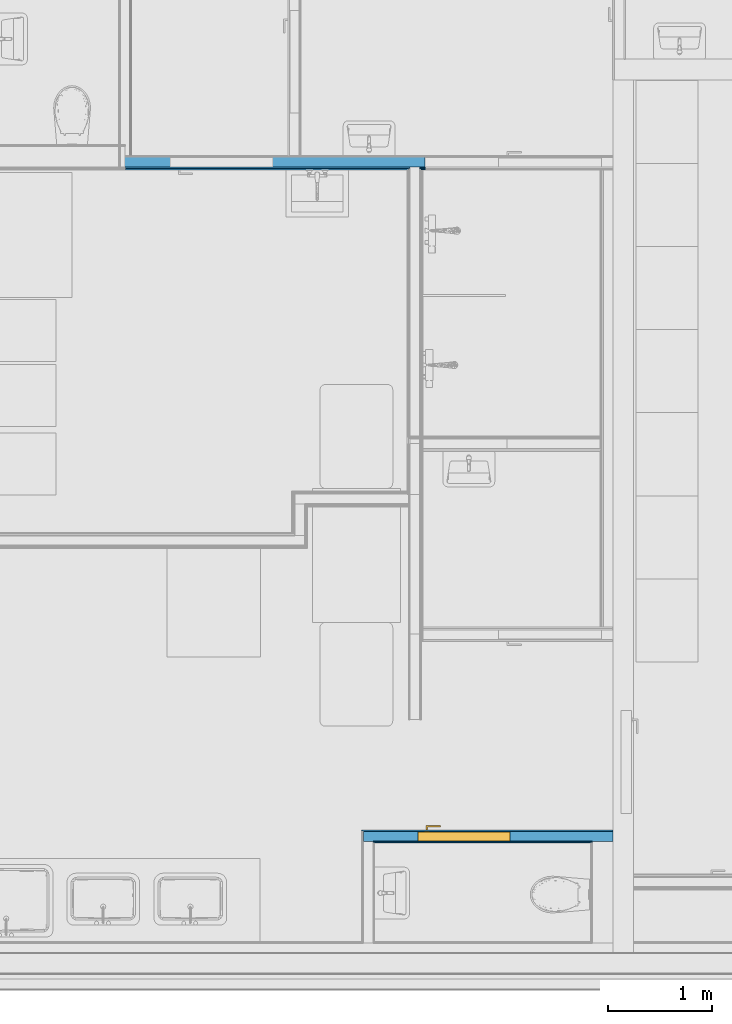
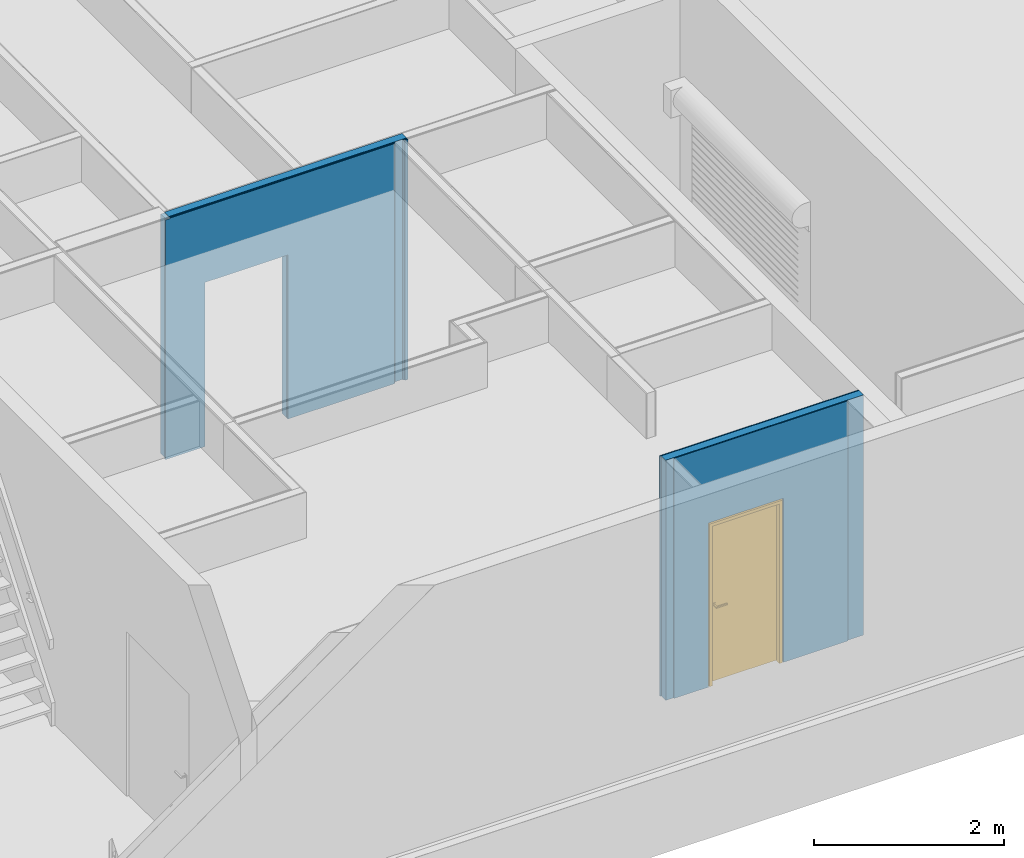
# One storey, part 21 of 67: 8 building element parts, 1 door, 2 openings, 2 elements without a shape of their own.
"""IFC4 building model written with IfcOpenShell, lengths in millimetres."""

from ifc_helpers import new_model, entity, si_unit, converted_unit, direction, frame, origin, place, context, subcontext, project, spatial, indexed_curve, outline, extrude, polygons, source, transform, mapped, material, constituent, constituent_set, type_object, type_shapes, element, fill, aggregate, save


model = new_model("IFC4")

# Units and contexts
model_context = context("Model", 3, precision=0.01, world=origin(), true_north=direction((0.0, 1.0)))
body_context = subcontext(model_context, "Body", "Model", "MODEL_VIEW")
ifc_project = project(units=[si_unit("LENGTHUNIT", "METRE", prefix="MILLI"), si_unit("AREAUNIT", "SQUARE_METRE"), si_unit("VOLUMEUNIT", "CUBIC_METRE"), converted_unit("PLANEANGLEUNIT", "DEGREE", entity("IfcPlaneAngleMeasure", 0.017453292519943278), si_unit("PLANEANGLEUNIT", "RADIAN"), dimensions=[0, 0, 0, 0, 0, 0, 0])], contexts=[model_context])

# Site, building, storey
site_placement = place(None, origin())
site = spatial("IfcSite", under=ifc_project, at=site_placement, Name="Tomtens navn", CompositionType="ELEMENT")
building_placement = place(site_placement, origin())
building = spatial("IfcBuilding", under=site, at=building_placement, Name="Byggets navn", CompositionType="ELEMENT")
storey_placement = place(building_placement, origin())
storey = spatial("IfcBuildingStorey", under=building, at=storey_placement, Name="Level 01", CompositionType="ELEMENT", Elevation=2.1993652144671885e-25)

# Door
ifc_material_1 = material(Name="Rustfritt Stål", Category="Metal")
ifc_constituent_1 = constituent(ifc_material_1, Name="Rustfritt Stål", Category="Metal", fraction=0.0019857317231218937)
ifc_material_2 = material(Name="NO_Maling - Hvit", Category="Overflatebehandling")
ifc_constituent_2 = constituent(ifc_material_2, Name="NO_Maling - Hvit", Category="Overflatebehandling", fraction=0.7764080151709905)
ifc_material_3 = material(Name="Hvit", Category="Paint")
ifc_constituent_3 = constituent(ifc_material_3, Name="Hvit", Category="Paint", fraction=0.2216062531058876)
ifc_constituent_set_1 = constituent_set(constituents=[ifc_constituent_1, ifc_constituent_2, ifc_constituent_3])
ifc_constituent_4 = constituent(ifc_material_1, Name="Rustfritt Stål", Category="Metal", fraction=0.0019857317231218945)
ifc_constituent_5 = constituent(ifc_material_2, Name="Panel", Category="Overflatebehandling", fraction=0.7764080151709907)
ifc_constituent_6 = constituent(ifc_material_3, Name="Frame/Mullion", Category="Paint", fraction=0.22160625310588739)
ifc_constituent_set_2 = constituent_set(constituents=[ifc_constituent_4, ifc_constituent_5, ifc_constituent_6])
door_type = type_object("IfcDoorType", Name="Enfløyet:ID04 Tredør 9x21M", OperationType="SINGLE_SWING_RIGHT", PredefinedType="DOOR", material=ifc_constituent_set_2)
shared_shape = source(origin(), body_context, "Body", "SweptSolid", [
    extrude(outline(indexed_curve([(-50.833333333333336, -33.33333333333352), (-35.83333333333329, -33.33333333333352), (-35.8333333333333, 9.166666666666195), (86.66666666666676, 9.16666666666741), (86.66666666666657, 24.166666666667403), (-50.83333333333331, 24.16666666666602), (-50.833333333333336, -33.33333333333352)], self_intersect=False)), frame((141.33333333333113, 139.9410394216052, 980.5000000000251)), (0.0, 0.0, 1.0), 14.999999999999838),
    extrude(outline(indexed_curve([(-24.999999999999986, -2.7999999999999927), (25.000000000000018, -2.800000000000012), (24.999999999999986, 2.7999999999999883), (-24.99999999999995, 2.8000000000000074), (-24.999999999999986, -2.7999999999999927)], self_intersect=False)), frame((98.0, 103.80000000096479, 850.9862950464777), z_axis=(0.0, 0.0, 1.0), x_axis=(-1.0, 0.0, 0.0)), (0.0, 0.0, 1.0), 159.01370495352),
    extrude(outline(indexed_curve([(-33.33333333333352, -50.83333333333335), (24.16666666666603, -50.83333333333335), (24.166666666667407, 86.66666666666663), (9.166666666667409, 86.6666666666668), (9.16666666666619, -35.83333333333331), (-33.33333333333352, -35.83333333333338), (-33.33333333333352, -50.83333333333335)], self_intersect=False)), frame((141.33333333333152, 22.058960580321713, 980.5000000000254), z_axis=(0.0, 0.0, 1.0), x_axis=(0.0, -1.0, 0.0)), (0.0, 0.0, 1.0), 14.999999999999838),
    extrude(outline(indexed_curve([(-2.800000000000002, -25.00000000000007), (2.799999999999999, -25.00000000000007), (2.8000000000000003, 25.0), (-2.800000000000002, 24.999999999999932), (-2.800000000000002, -25.00000000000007)], self_intersect=False)), frame((98.0, 58.20000000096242, 850.9862950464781), z_axis=(0.0, 0.0, 1.0), x_axis=(0.0, 1.0, 0.0)), (0.0, 0.0, 1.0), 159.01370495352),
    extrude(outline(indexed_curve([(-20.0, -406.9999999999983), (20.0, -406.9999999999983), (20.0, 406.9999999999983), (-20.0, 406.9999999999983), (-20.0, -406.9999999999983)], self_intersect=False)), frame((455.0, 81.0, 10.0), z_axis=(0.0, 0.0, 1.0), x_axis=(0.0, 1.0, 0.0)), (0.0, 0.0, 1.0), 2042.0),
    extrude(outline(indexed_curve([(-1035.4999999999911, -444.9999999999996), (1054.4999999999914, -444.99999999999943), (1054.4999999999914, 444.99999999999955), (-1035.4999999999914, 444.99999999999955), (-1035.4999999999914, 406.9999999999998), (1016.4999999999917, 406.9999999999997), (1016.4999999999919, -406.99999999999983), (-1035.4999999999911, -406.9999999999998), (-1035.4999999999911, -444.9999999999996)], self_intersect=False)), frame((455.0, 1.0, 1035.4999999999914), z_axis=(0.0, 1.0, 0.0), x_axis=(0.0, 0.0, 1.0)), (0.0, 0.0, 1.0), 99.99999999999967),
])
type_shapes(door_type, [shared_shape])
wall_2_placement = place(storey_placement, frame((66622.85352810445, 9186.966456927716, 0.0), z_axis=(0.0, 0.0, 1.0), x_axis=(-1.0, 0.0, 0.0)))
opening_2_placement = place(wall_2_placement, frame((1888.842638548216, 60.500000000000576, 0.0)))
door_placement = place(opening_2_placement, frame((0.0, 0.0, 0.0), z_axis=(0.0, 0.0, 1.0), x_axis=(-1.0, 0.0, 0.0)))
door = element("IfcDoor", 1, at=door_placement, inside=storey, type_object=door_type, material=ifc_constituent_set_1, Name="Enfløyet:ID04 Tredør 9x21M", OverallHeight=2110.000000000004, OverallWidth=909.9999999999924, PredefinedType="DOOR", context=body_context, shape_type="MappedRepresentation", body=[
    mapped(shared_shape, transform((0.0, 0.0, 0.0), scale=1.0)),
])

# Wall, opening, building element parts
wall_type_1 = type_object("IfcWallType", Name="Basic Wall:IV14 Gips 95 Stender kryssfiner Gips", PredefinedType="STANDARD")
wall_1_placement = place(storey_placement, frame((64815.35352810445, 15671.96645692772, 0.0), z_axis=(0.0, 0.0, 1.0), x_axis=(-1.0, 0.0, 0.0)))
wall_1 = element("IfcWall", 2, at=wall_1_placement, inside=storey, type_object=wall_type_1, Name="Basic Wall:IV14 Gips 95 Stender kryssfiner Gips", PredefinedType="NOTDEFINED")
opening_1_placement = place(wall_1_placement, frame((1457.5000000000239, -68.0, 0.0)))
element("IfcOpeningElement", 3, at=opening_1_placement, cuts=wall_1, Name="Enfløyet:ID06 Tredør 10x21M:1", PredefinedType="OPENING", context=body_context, shape_type="SweptSolid", body=[
    extrude(outline(indexed_curve([(0.0, 3.5193181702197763e-12), (2110.000000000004, 3.5193181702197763e-12), (2110.000000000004, 1009.9999999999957), (0.0, 1009.9999999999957), (0.0, 3.5193181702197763e-12)], self_intersect=False)), frame((0.0, 0.0, 0.0), z_axis=(0.0, 1.0, 0.0), x_axis=(0.0, 0.0, 1.0)), (0.0, 0.0, 1.0), 136.0),
])
ifc_material_4 = material(Name="NO_Kryssfiner", Category="Tre")
building_element_part_1_placement = place(wall_1_placement, origin())
building_element_part_1 = element("IfcBuildingElementPart", 4, at=building_element_part_1_placement, material=ifc_material_4, Name="NO_Kryssfiner", context=body_context, shape_type="SweptSolid", body=[
    extrude(outline(indexed_curve([(-7.500000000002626, -25.749999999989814), (7.499999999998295, -25.749999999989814), (7.499999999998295, 25.749999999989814), (-7.500000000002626, 25.749999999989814), (-7.500000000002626, -25.749999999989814)], self_intersect=False)), frame((25.74999999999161, 47.500000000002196, 0.0), z_axis=(0.0, 0.0, 1.0), x_axis=(0.0, 1.0, 0.0)), (0.0, 0.0, 1.0), 3087.999999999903),
])
building_element_part_2_placement = place(wall_1_placement, frame((2937.0, 55.0, 0.0)))
building_element_part_2 = element("IfcBuildingElementPart", 5, at=building_element_part_2_placement, material=ifc_material_4, Name="NO_Kryssfiner", context=body_context, shape_type="Tessellation", body=[
    polygons([(9.067655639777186e-12, 0.0, 3079.9999999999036), (-47.500000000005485, 0.0, 3079.9999999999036), (-47.500000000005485, -15.000000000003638, 3079.9999999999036), (9.069376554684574e-12, -15.000000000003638, 3079.9999999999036), (-1479.4999999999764, 0.0, 7.331217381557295e-26), (-1479.4999999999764, 0.0, 2110.000000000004), (-1479.4999999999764, -15.000000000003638, 2110.000000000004), (-1479.4999999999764, -15.000000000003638, 7.331217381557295e-26), (-469.4999999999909, 0.0, 2110.0000000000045), (-469.4999999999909, -15.000000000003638, 2110.000000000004), (-469.4999999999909, 0.0, 7.331217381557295e-26), (-469.4999999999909, -15.000000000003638, 7.331217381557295e-26), (9.067655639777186e-12, 0.0, 7.331217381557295e-26), (9.069376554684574e-12, -15.000000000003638, 7.331217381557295e-26), (-2790.5000000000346, 0.0, 3079.9999999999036), (-2790.5000000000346, 0.0, 7.331217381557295e-26), (-2790.5000000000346, -15.000000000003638, 7.331217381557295e-26), (-2790.5000000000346, -15.0, 3079.9999999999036), (-2790.5000000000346, -15.000000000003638, 3087.999999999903), (-2790.5000000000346, 0.0, 3087.999999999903), (-47.500000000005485, 0.0, 3087.999999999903), (-47.500000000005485, -15.000000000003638, 3087.999999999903)], [[[1, 2, 3, 4]], [[5, 6, 7, 8]], [[6, 9, 10, 7]], [[9, 11, 12, 10]], [[11, 13, 14, 12]], [[14, 13, 1, 4]], [[15, 16, 17, 18, 19, 20]], [[2, 21, 22, 3]], [[21, 20, 19, 22]], [[8, 7, 10, 12, 14, 4, 3, 22, 19, 18, 17]], [[5, 8, 17, 16]], [[13, 11, 9, 6, 5, 16, 15, 20, 21, 2, 1]]], closed=True),
])
ifc_material_5 = material(Name="Stender", Category="Unassigned")
building_element_part_3_placement = place(wall_1_placement, frame((2937.0, 40.0, 0.0)))
building_element_part_3 = element("IfcBuildingElementPart", 6, at=building_element_part_3_placement, material=ifc_material_5, Name="Stender", context=body_context, shape_type="Tessellation", body=[
    polygons([(-47.50000000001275, -95.00000000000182, 3079.9999999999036), (9.080275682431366e-12, -95.00000000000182, 3079.9999999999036), (9.069376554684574e-12, -3.637978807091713e-12, 3079.9999999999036), (-47.500000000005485, -3.637978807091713e-12, 3079.9999999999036), (-2937.0000000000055, -95.00000000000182, 7.331217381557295e-26), (-1479.4999999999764, -95.00000000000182, 7.331217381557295e-26), (-1479.4999999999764, -95.00000000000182, 2110.000000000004), (-469.4999999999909, -95.00000000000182, 2110.000000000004), (-469.4999999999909, -95.00000000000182, 7.331217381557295e-26), (9.080275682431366e-12, -95.00000000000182, 7.331217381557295e-26), (-47.50000000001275, -95.00000000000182, 3087.999999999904), (-2937.0000000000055, -95.00000000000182, 3087.999999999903), (-2937.0000000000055, -95.00000000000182, 3079.9999999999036), (-2937.0000000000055, -3.637978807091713e-12, 7.331217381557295e-26), (-1479.4999999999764, -3.637978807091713e-12, 7.331217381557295e-26), (-1479.4999999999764, -3.637978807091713e-12, 2110.000000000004), (-469.4999999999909, -3.637978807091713e-12, 2110.000000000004), (-469.4999999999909, -3.637978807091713e-12, 7.331217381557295e-26), (9.069376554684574e-12, -3.637978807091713e-12, 7.331217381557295e-26), (-2937.0000000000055, -3.637978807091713e-12, 3087.999999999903), (-2937.0000000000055, 0.0, 3079.9999999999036), (-47.500000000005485, -3.637978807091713e-12, 3087.999999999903)], [[[1, 2, 3, 4]], [[5, 6, 7, 8, 9, 10, 2, 1, 11, 12, 13]], [[6, 5, 14, 15]], [[7, 6, 15, 16]], [[8, 7, 16, 17]], [[9, 8, 17, 18]], [[10, 9, 18, 19]], [[5, 13, 12, 20, 21, 14]], [[15, 14, 21, 20, 22, 4, 3, 19, 18, 17, 16]], [[10, 19, 3, 2]], [[11, 1, 4, 22]], [[12, 11, 22, 20]]], closed=True),
])
ifc_material_6 = material(Name="Gipsplater", Category="NOR ^ Gips")
building_element_part_4_placement = place(wall_1_placement, origin())
building_element_part_4 = element("IfcBuildingElementPart", 7, at=building_element_part_4_placement, material=ifc_material_6, Name="Gipsplater", context=body_context, shape_type="SweptSolid", body=[
    extrude(outline(indexed_curve([(-6.499999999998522, -18.249999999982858), (6.500000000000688, -18.249999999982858), (6.500000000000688, 18.24999999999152), (-6.499999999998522, 18.24999999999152), (-6.499999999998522, -18.249999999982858)], self_intersect=False)), frame((18.24999999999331, 61.49999999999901, 0.0), z_axis=(0.0, 0.0, 1.0), x_axis=(0.0, 1.0, 0.0)), (0.0, 0.0, 1.0), 3087.999999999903),
])
building_element_part_5_placement = place(wall_1_placement, frame((2950.0, 68.0, 0.0)))
building_element_part_5 = element("IfcBuildingElementPart", 8, at=building_element_part_5_placement, material=ifc_material_6, Name="Gipsplater", context=body_context, shape_type="Tessellation", body=[
    polygons([(-60.50000000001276, -12.999999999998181, 3079.9999999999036), (1.7916980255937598e-12, -12.999999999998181, 3079.9999999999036), (1.7902065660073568e-12, 1.8189894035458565e-12, 3079.9999999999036), (-60.50000000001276, 1.8189894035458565e-12, 3079.9999999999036), (-1492.4999999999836, -12.999999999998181, 2110.0000000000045), (-1492.4999999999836, -12.999999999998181, 7.331217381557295e-26), (-1492.4999999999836, 1.8189894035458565e-12, 2.1993652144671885e-25), (-1492.4999999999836, 1.8189894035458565e-12, 2110.000000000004), (-482.4999999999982, -12.999999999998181, 2110.0000000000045), (-482.49999999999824, 1.8189894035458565e-12, 2110.000000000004), (-482.4999999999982, -12.999999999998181, 7.331217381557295e-26), (-482.49999999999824, 1.8189894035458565e-12, 2.1993652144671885e-25), (1.7916980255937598e-12, -12.999999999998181, 7.331217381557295e-26), (1.7902065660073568e-12, 1.8189894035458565e-12, 2.1993652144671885e-25), (-2775.5000000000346, 1.8189894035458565e-12, 2.1993652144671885e-25), (-2788.5000000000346, 1.8189894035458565e-12, 1.466243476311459e-25), (-2788.5000000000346, 1.8189894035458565e-12, 3079.999999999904), (-2788.5000000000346, 1.8189894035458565e-12, 3087.999999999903), (-2775.5000000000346, 1.8189894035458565e-12, 3087.999999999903), (-60.50000000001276, 1.8189894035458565e-12, 3087.999999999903), (-2788.5000000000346, -12.999999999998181, 1.409983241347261e-15), (-2788.5000000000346, -12.999999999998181, 3079.9999999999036), (-2788.5000000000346, -12.999999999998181, 3087.999999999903), (-60.50000000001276, -12.999999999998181, 3087.999999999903)], [[[1, 2, 3, 4]], [[5, 6, 7, 8]], [[9, 5, 8, 10]], [[11, 9, 10, 12]], [[13, 11, 12, 14]], [[2, 13, 14, 3]], [[3, 14, 12, 10, 8, 7, 15, 16, 17, 18, 19, 20, 4]], [[21, 22, 23, 18, 17, 16]], [[24, 1, 4, 20]], [[23, 24, 20, 19, 18]], [[15, 7, 6, 21, 16]], [[6, 5, 9, 11, 13, 2, 1, 24, 23, 22, 21]]], closed=True),
])
aggregate(wall_1, [building_element_part_1, building_element_part_2, building_element_part_3, building_element_part_4, building_element_part_5])

# Wall, opening
wall_type_2 = type_object("IfcWallType", Name="Basic Wall:IV10  Forestia 95 Stender Forestia", PredefinedType="STANDARD")
wall_2 = element("IfcWall", 9, at=wall_2_placement, inside=storey, type_object=wall_type_2, Name="Basic Wall:IV10  Forestia 95 Stender Forestia", PredefinedType="NOTDEFINED")
opening_2 = element("IfcOpeningElement", 10, at=opening_2_placement, cuts=wall_2, Name="Enfløyet:ID04 Tredør 9x21M:1", PredefinedType="OPENING", context=body_context, shape_type="SweptSolid", body=[
    extrude(outline(indexed_curve([(0.0, 909.9999999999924), (0.0, 7.072080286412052e-29), (2110.000000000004, 7.072080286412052e-29), (2110.000000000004, 909.9999999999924), (0.0, 909.9999999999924)], self_intersect=False)), frame((0.0, 0.0, 0.0), z_axis=(0.0, -1.0, 0.0), x_axis=(0.0, 0.0, 1.0)), (0.0, 0.0, 1.0), 120.99999999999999),
])

fill(opening_2, door)

# Building element part
building_element_part_6_placement = place(wall_2_placement, frame((2403.842638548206, 47.49999999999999, 0.0)))
building_element_part_6 = element("IfcBuildingElementPart", 11, at=building_element_part_6_placement, material=ifc_material_5, Name="Stender", context=body_context, shape_type="Tessellation", body=[
    polygons([(-1.7098637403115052e-11, 0.0, 7.331217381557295e-26), (-515.0000000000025, 0.0, 7.331217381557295e-26), (-515.0000000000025, 0.0, 2110.000000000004), (-1424.9999999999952, 0.0, 2110.000000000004), (-1424.9999999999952, 0.0, 7.331217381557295e-26), (-2403.8426385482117, 0.0, 7.331217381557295e-26), (-2403.8426385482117, 0.0, 3087.999999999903), (-1.7098637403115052e-11, 0.0, 3087.999999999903), (-2403.8426385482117, -95.0, 7.331217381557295e-26), (-1424.9999999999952, -95.0, 7.331217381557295e-26), (-1424.9999999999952, -95.0, 2110.000000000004), (-515.0000000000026, -95.0, 2110.000000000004), (-515.0000000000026, -95.0, 7.331217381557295e-26), (-2403.8426385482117, -95.0, 3087.999999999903), (-1.712510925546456e-11, -95.0, 3087.999999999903), (-1.712510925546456e-11, -95.0, 7.331217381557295e-26)], [[[1, 2, 3, 4, 5, 6, 7, 8]], [[9, 6, 5, 10]], [[10, 5, 4, 11]], [[11, 4, 3, 12]], [[2, 13, 12, 3]], [[6, 9, 14, 7]], [[15, 8, 7, 14]], [[1, 16, 13, 2]], [[13, 16, 15, 14, 9, 10, 11, 12]], [[16, 1, 8, 15]]], closed=True),
])

ifc_material_7 = material(Name="NO_platekledning forestia", Category="Tre")
building_element_part_7_placement = place(wall_2_placement, frame((2308.842638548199, 60.50000000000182, 0.0)))
building_element_part_7 = element("IfcBuildingElementPart", 12, at=building_element_part_7_placement, material=ifc_material_7, Name="NO_platekledning forestia", context=body_context, shape_type="Tessellation", body=[
    polygons([(-2097.8426385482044, -1.8189894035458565e-12, 2.1993652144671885e-25), (-1329.999999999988, -3.637978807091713e-12, 2.1993652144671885e-25), (-1329.999999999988, -13.000000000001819, 7.331217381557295e-26), (-2110.84263854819, -13.000000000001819, 7.331217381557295e-26), (-2110.84263854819, -3.637978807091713e-12, 2.1993652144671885e-25), (-1329.999999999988, -3.637978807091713e-12, 2110.000000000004), (-1329.999999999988, -13.000000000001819, 2110.000000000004), (-419.9999999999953, -3.637978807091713e-12, 2110.000000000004), (-419.9999999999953, -13.000000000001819, 2110.000000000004), (-419.9999999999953, -3.637978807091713e-12, 2.1993652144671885e-25), (-419.9999999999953, -13.000000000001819, 7.331217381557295e-26), (-2097.8426385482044, -1.8189894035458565e-12, 3087.999999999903), (-2110.84263854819, -3.637978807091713e-12, 3087.999999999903), (-2110.84263854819, -13.000000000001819, 3087.999999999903), (-2.5467221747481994e-12, -13.000000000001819, 3087.999999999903), (-2.5430997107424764e-12, 0.0, 3087.999999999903), (-13.000000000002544, 0.0, 3087.999999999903), (-13.000000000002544, 0.0, 2.1993652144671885e-25), (-2.5430997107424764e-12, 0.0, 2.1993652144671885e-25), (-2.5467221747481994e-12, -13.000000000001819, 7.331217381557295e-26)], [[[1, 2, 3, 4, 5]], [[2, 6, 7, 3]], [[6, 8, 9, 7]], [[8, 10, 11, 9]], [[12, 13, 14, 15, 16, 17]], [[18, 19, 20, 11, 10]], [[11, 20, 15, 14, 4, 3, 7, 9]], [[16, 19, 18, 10, 8, 6, 2, 1, 5, 13, 12, 17]], [[19, 16, 15, 20]], [[13, 5, 4, 14]]], closed=True),
])

building_element_part_8_placement = place(wall_2_placement, frame((2416.842638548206, -47.49999999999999, 0.0)))
building_element_part_8 = element("IfcBuildingElementPart", 13, at=building_element_part_8_placement, material=ifc_material_7, Name="NO_platekledning forestia", context=body_context, shape_type="Tessellation", body=[
    polygons([(-9.849151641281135e-12, 0.0, 7.331217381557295e-26), (-528.0000000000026, 0.0, 7.331217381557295e-26), (-528.0000000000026, 0.0, 2110.000000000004), (-1437.9999999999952, 0.0, 2110.000000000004), (-1437.9999999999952, 0.0, 7.331217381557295e-26), (-2416.8426385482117, 0.0, 7.331217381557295e-26), (-2416.8426385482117, 0.0, 3087.999999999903), (-9.849151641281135e-12, 0.0, 3087.999999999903), (-9.852774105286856e-12, -13.0, 2.1993652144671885e-25), (-9.852774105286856e-12, -13.0, 3087.999999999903), (-2416.8426385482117, -13.0, 3087.999999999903), (-2416.8426385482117, -13.0, 2.1993652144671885e-25), (-1437.9999999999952, -13.0, 2.1993652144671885e-25), (-1437.9999999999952, -13.0, 2110.000000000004), (-528.0000000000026, -13.0, 2110.000000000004), (-528.0000000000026, -13.0, 2.1993652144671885e-25)], [[[1, 2, 3, 4, 5, 6, 7, 8]], [[9, 10, 11, 12, 13, 14, 15, 16]], [[13, 12, 6, 5]], [[10, 9, 1, 8]], [[14, 13, 5, 4]], [[15, 14, 4, 3]], [[16, 15, 3, 2]], [[12, 11, 7, 6]], [[11, 10, 8, 7]], [[9, 16, 2, 1]]], closed=True),
])

aggregate(wall_2, [building_element_part_6, building_element_part_7, building_element_part_8])

save(model, "model.ifc")
